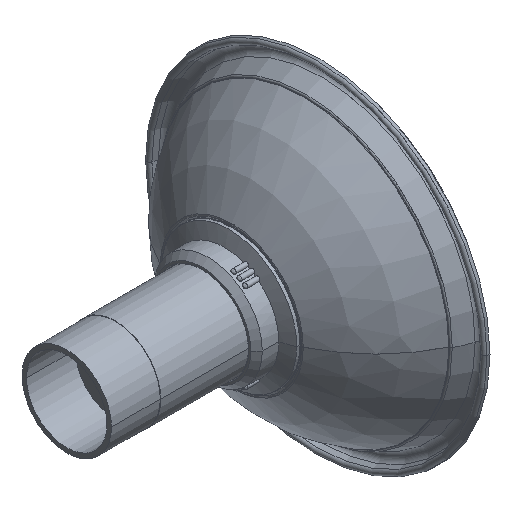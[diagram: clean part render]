
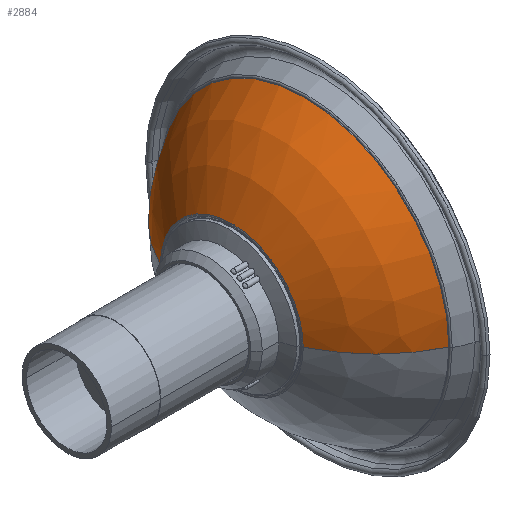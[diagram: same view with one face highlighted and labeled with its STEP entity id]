
A CAD part, isometric view. The second image highlights one B-rep face of the part: STEP entity #2884.
In plain terms, the highlighted spherical face has radius 178 mm.
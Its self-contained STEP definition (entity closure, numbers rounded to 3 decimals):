
#1908=CARTESIAN_POINT('',(0.,103.943,0.));
#1909=DIRECTION('',(0.,-1.,0.));
#1910=DIRECTION('',(1.,0.,0.));
#1911=AXIS2_PLACEMENT_3D('',#1908,#1909,#1910);
#1924=CARTESIAN_POINT('',(0.,-55.524,0.));
#1925=DIRECTION('',(0.,0.,1.));
#1926=DIRECTION('',(0.897,0.443,0.));
#1927=AXIS2_PLACEMENT_3D('',#1924,#1925,#1926);
#1932=CARTESIAN_POINT('',(0.,23.279,0.));
#1933=DIRECTION('',(0.,-1.,0.));
#1934=DIRECTION('',(1.,0.,0.));
#1935=AXIS2_PLACEMENT_3D('',#1932,#1933,#1934);
#1940=CARTESIAN_POINT('',(0.,-55.524,0.));
#1941=DIRECTION('',(0.,0.,-1.));
#1942=DIRECTION('',(-0.897,0.443,0.));
#1943=AXIS2_PLACEMENT_3D('',#1940,#1941,#1942);
#2631=CARTESIAN_POINT('',(159.606,23.279,0.));
#2633=VERTEX_POINT('',#2631);
#2634=CARTESIAN_POINT('',(79.083,103.943,0.));
#2635=VERTEX_POINT('',#2634);
#2657=CARTESIAN_POINT('',(-159.606,23.279,
0.));
#2659=VERTEX_POINT('',#2657);
#2660=CARTESIAN_POINT('',(-79.083,103.943,
0.));
#2661=VERTEX_POINT('',#2660);
#2870=CARTESIAN_POINT('',(0.,-55.524,0.));
#2871=DIRECTION('',(0.,1.,0.));
#2872=DIRECTION('',(1.,0.,0.));
#2873=AXIS2_PLACEMENT_3D('',#2870,#2871,#2872);
#2874=SPHERICAL_SURFACE('',#2873,178.);
#2876=ORIENTED_EDGE('',*,*,#2875,.F.);
#2878=ORIENTED_EDGE('',*,*,#2877,.T.);
#2880=ORIENTED_EDGE('',*,*,#2879,.T.);
#2881=ORIENTED_EDGE('',*,*,#2863,.F.);
#2882=EDGE_LOOP('',(#2876,#2878,#2880,#2881));
#2883=FACE_OUTER_BOUND('',#2882,.F.);
#1912=CIRCLE('',#1911,79.083);
#1928=CIRCLE('',#1927,178.);
#1936=CIRCLE('',#1935,159.606);
#1944=CIRCLE('',#1943,178.);
#2863=EDGE_CURVE('',#2635,#2661,#1912,.T.);
#2875=EDGE_CURVE('',#2633,#2635,#1928,.T.);
#2877=EDGE_CURVE('',#2633,#2659,#1936,.T.);
#2879=EDGE_CURVE('',#2659,#2661,#1944,.T.);
#2884=ADVANCED_FACE('',(#2883),#2874,.T.);
